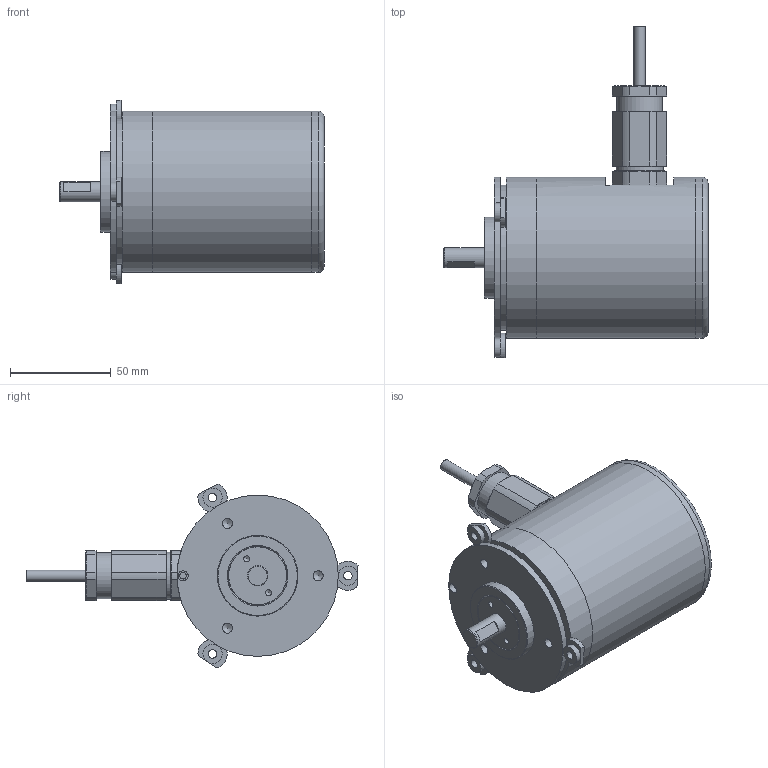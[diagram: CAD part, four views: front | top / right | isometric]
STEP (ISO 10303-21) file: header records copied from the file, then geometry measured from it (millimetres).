
FILE_DESCRIPTION(/* description */ ('Unknown'),/* implementation_level */ '2;1');
FILE_NAME(/* name */ 'EX80A',/* time_stamp */ '2021-01-15T10:59:46+01:00',/* author */ ('Unknown'),/* organization */ ('Unknown'),/* preprocessor_version */ 'ST-DEVELOPER v16.7',/* originating_system */ 'DEX',/* authorisation */ $);
FILE_SCHEMA (('AUTOMOTIVE_DESIGN {1 0 10303 214 3 1 1}'));
Length unit declared in the file: millimetre
Products named in the file (1): EX80A
Bounding box: 131 x 164.66 x 91.2 mm (x, y, z)
Volume: 433861.9 mm3; surface area: 96210.1 mm2
Topology: 12 solids, 12 shells, 283 faces, 609 edges, 381 vertices
Faces by surface type: plane 110, cylinder 95, cone 65, torus 13
Full cylindrical faces by diameter (mm): 1 x1, 2.013 x3, 2.459 x3, 3 x2, 3.242 x4, 4 x2, 4.2 x3, 4.917 x3, 5 x1, 5.5 x1, 9.5 x3, 10 x2, 10.16 x1, 13 x1, 18 x2, 18.376 x1, 19.96 x1, 22.85 x1, 23 x2, 23.3 x1, 24 x1, 26 x2, 28.917 x1, 30 x1, 30.5 x1, 40 x2, 49 x1, 50 x1, 50.376 x1, 52 x3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
Entity records: 6947 total; most frequent: DIRECTION 1235, CARTESIAN_POINT 1222, ORIENTED_EDGE 924, AXIS2_PLACEMENT_3D 538, FACE_BOUND 466, EDGE_CURVE 462, EDGE_LOOP 455, VERTEX_POINT 362
